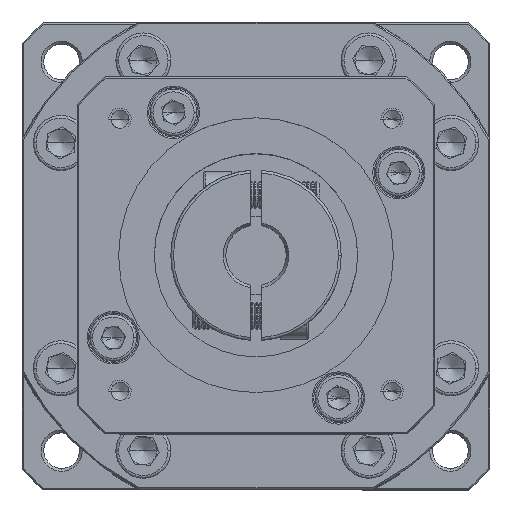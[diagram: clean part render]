
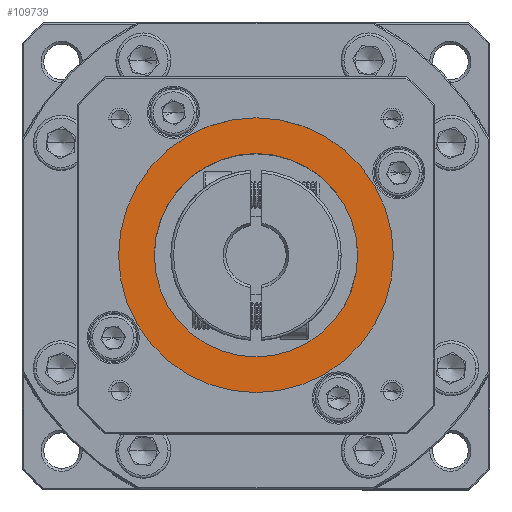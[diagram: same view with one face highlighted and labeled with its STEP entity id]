
A CAD part, top view. The second image highlights one B-rep face of the part: STEP entity #109739.
In plain terms, the highlighted planar face has unit normal (0, 0, 1).
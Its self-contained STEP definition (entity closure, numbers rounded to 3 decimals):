
#878 = EDGE_CURVE ( 'NONE', #75966, #96766, #121718, .T. ) ;
#1841 = DIRECTION ( 'NONE',  ( 0., 0., 1. ) ) ;
#7858 = DIRECTION ( 'NONE',  ( 1., 0., 0. ) ) ;
#10445 = AXIS2_PLACEMENT_3D ( 'NONE', #11947, #123386, #81795 ) ;
#11947 = CARTESIAN_POINT ( 'NONE',  ( -74.997, 22.718, 4.774 ) ) ;
#13426 = DIRECTION ( 'NONE',  ( 1., 0., 0. ) ) ;
#15523 = FACE_BOUND ( 'NONE', #88941, .T. ) ;
#17238 = DIRECTION ( 'NONE',  ( 0., 0., 1. ) ) ;
#18548 = CARTESIAN_POINT ( 'NONE',  ( -74.997, 22.718, 4.774 ) ) ;
#23302 = CARTESIAN_POINT ( 'NONE',  ( -74.997, 22.718, 4.774 ) ) ;
#25003 = CARTESIAN_POINT ( 'NONE',  ( -93.497, 22.718, 4.774 ) ) ;
#27373 = VERTEX_POINT ( 'NONE', #97674 ) ;
#28744 = DIRECTION ( 'NONE',  ( 1., 0., 0. ) ) ;
#34542 = DIRECTION ( 'NONE',  ( 1., 0., 0. ) ) ;
#35548 = AXIS2_PLACEMENT_3D ( 'NONE', #121709, #49747, #28744 ) ;
#40616 = AXIS2_PLACEMENT_3D ( 'NONE', #23302, #1841, #13426 ) ;
#40890 = AXIS2_PLACEMENT_3D ( 'NONE', #18548, #17238, #7858 ) ;
#43187 = ORIENTED_EDGE ( 'NONE', *, *, #78695, .T. ) ;
#45938 = ORIENTED_EDGE ( 'NONE', *, *, #878, .T. ) ;
#49747 = DIRECTION ( 'NONE',  ( 0., 0., -1. ) ) ;
#51340 = CIRCLE ( 'NONE', #40890, 25. ) ;
#52331 = ORIENTED_EDGE ( 'NONE', *, *, #67171, .T. ) ;
#65817 = CIRCLE ( 'NONE', #40616, 25. ) ;
#67171 = EDGE_CURVE ( 'NONE', #96766, #75966, #109436, .T. ) ;
#75267 = CARTESIAN_POINT ( 'NONE',  ( -74.997, 22.718, 4.774 ) ) ;
#75701 = DIRECTION ( 'NONE',  ( 0., 0., -1. ) ) ;
#75966 = VERTEX_POINT ( 'NONE', #25003 ) ;
#76772 = EDGE_LOOP ( 'NONE', ( #100132, #43187 ) ) ;
#78695 = EDGE_CURVE ( 'NONE', #27373, #118838, #65817, .T. ) ;
#81117 = FACE_OUTER_BOUND ( 'NONE', #76772, .T. ) ;
#81795 = DIRECTION ( 'NONE',  ( 1., 0., 0. ) ) ;
#88217 = CARTESIAN_POINT ( 'NONE',  ( -49.997, 22.718, 4.774 ) ) ;
#88941 = EDGE_LOOP ( 'NONE', ( #52331, #45938 ) ) ;
#90244 = PLANE ( 'NONE',  #10445 ) ;
#96766 = VERTEX_POINT ( 'NONE', #100062 ) ;
#97271 = EDGE_CURVE ( 'NONE', #118838, #27373, #51340, .T. ) ;
#97674 = CARTESIAN_POINT ( 'NONE',  ( -99.997, 22.718, 4.774 ) ) ;
#100062 = CARTESIAN_POINT ( 'NONE',  ( -56.497, 22.718, 4.774 ) ) ;
#100132 = ORIENTED_EDGE ( 'NONE', *, *, #97271, .T. ) ;
#109436 = CIRCLE ( 'NONE', #35548, 18.5 ) ;
#109739 = ADVANCED_FACE ( 'NONE', ( #81117, #15523 ), #90244, .T. ) ;
#115501 = AXIS2_PLACEMENT_3D ( 'NONE', #75267, #75701, #34542 ) ;
#118838 = VERTEX_POINT ( 'NONE', #88217 ) ;
#121709 = CARTESIAN_POINT ( 'NONE',  ( -74.997, 22.718, 4.774 ) ) ;
#121718 = CIRCLE ( 'NONE', #115501, 18.5 ) ;
#123386 = DIRECTION ( 'NONE',  ( 0., 0., 1. ) ) ;
